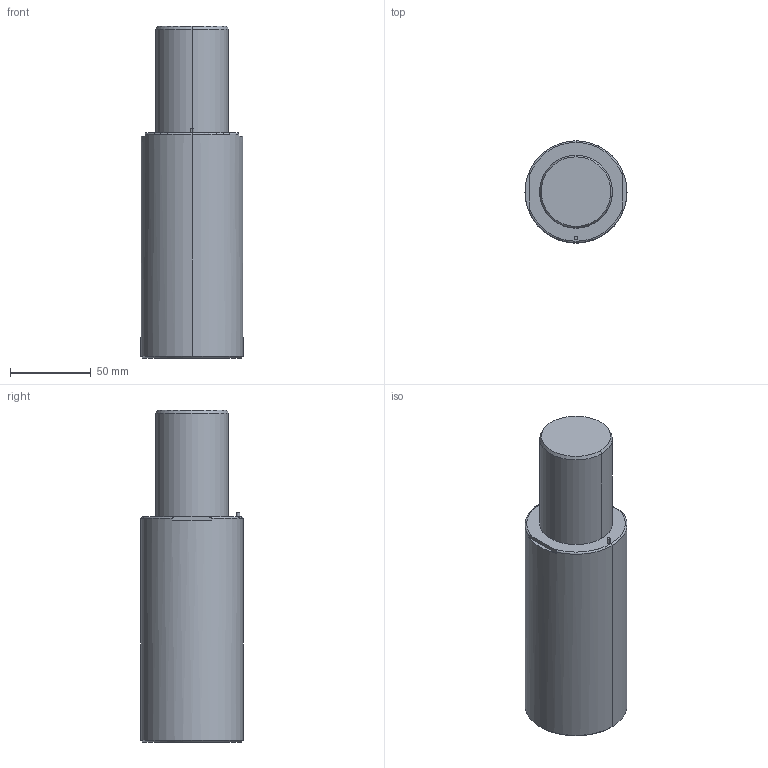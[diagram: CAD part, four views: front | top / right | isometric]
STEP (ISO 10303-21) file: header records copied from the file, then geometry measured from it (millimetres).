
FILE_DESCRIPTION(/* description */ (''),/* implementation_level */ '2;1');
FILE_NAME(/* name */ '3d_gsx63-63_03966_r00.stp',/* time_stamp */ '2011-01-10T14:15:11+09:00',/* author */ ('MISUMI'),/* organization */ (''),/* preprocessor_version */ 'ST-DEVELOPER v11',/* originating_system */ 'UGS - NX 5.0',/* authorisation */ '');
FILE_SCHEMA (('CONFIG_CONTROL_DESIGN'));
Length unit declared in the file: millimetre
Products named in the file (1): 3d_gsx63-63_03966_r00
Bounding box: 63 x 63 x 205 mm (x, y, z)
Volume: 534551.1 mm3; surface area: 44484.1 mm2
Topology: 1 solids, 1 shells, 59 faces, 130 edges, 78 vertices
Faces by surface type: cylinder 28, plane 15, cone 12, torus 4
Entity records: 1692 total; most frequent: DIRECTION 308, CARTESIAN_POINT 288, ORIENTED_EDGE 244, AXIS2_PLACEMENT_3D 130, EDGE_CURVE 122, VERTEX_POINT 78, EDGE_LOOP 72, CIRCLE 70
